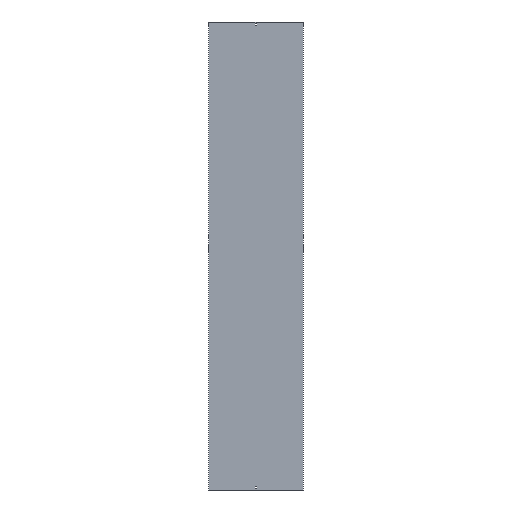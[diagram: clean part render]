
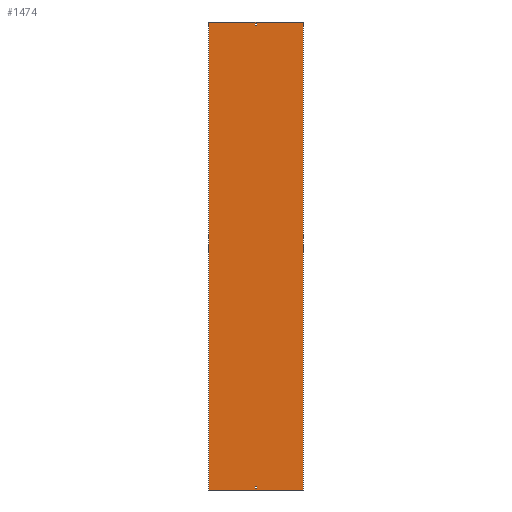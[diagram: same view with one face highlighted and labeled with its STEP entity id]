
A CAD part, front view. The second image highlights one B-rep face of the part: STEP entity #1474.
In plain terms, the highlighted planar face has unit normal (0, -1, 0).
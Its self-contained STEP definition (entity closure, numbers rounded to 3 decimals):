
#4 = FACE_BOUND ( 'NONE', #505, .T. ) ;
#19 = CARTESIAN_POINT ( 'NONE',  ( 3.25, 0., -1488. ) ) ;
#76 = DIRECTION ( 'NONE',  ( 0., 0., -1. ) ) ;
#101 = ORIENTED_EDGE ( 'NONE', *, *, #355, .T. ) ;
#146 = EDGE_CURVE ( 'NONE', #1374, #1237, #1238, .T. ) ;
#183 = VERTEX_POINT ( 'NONE', #1379 ) ;
#220 = VECTOR ( 'NONE', #1328, 1000. ) ;
#231 = ORIENTED_EDGE ( 'NONE', *, *, #1148, .T. ) ;
#236 = CARTESIAN_POINT ( 'NONE',  ( -3.25, 0., -1488. ) ) ;
#241 = VECTOR ( 'NONE', #76, 1000. ) ;
#250 = FACE_OUTER_BOUND ( 'NONE', #874, .T. ) ;
#256 = DIRECTION ( 'NONE',  ( -1., 0., 0. ) ) ;
#276 = ORIENTED_EDGE ( 'NONE', *, *, #544, .F. ) ;
#287 = VERTEX_POINT ( 'NONE', #639 ) ;
#296 = ORIENTED_EDGE ( 'NONE', *, *, #918, .T. ) ;
#306 = ORIENTED_EDGE ( 'NONE', *, *, #1442, .F. ) ;
#311 = CARTESIAN_POINT ( 'NONE',  ( 3.25, 0., 1479. ) ) ;
#343 = EDGE_CURVE ( 'NONE', #1551, #1268, #793, .T. ) ;
#355 = EDGE_CURVE ( 'NONE', #1268, #1024, #1332, .T. ) ;
#383 = CARTESIAN_POINT ( 'NONE',  ( -302., 0., 1500. ) ) ;
#399 = VECTOR ( 'NONE', #1020, 1000. ) ;
#464 = DIRECTION ( 'NONE',  ( 1., 0., 0. ) ) ;
#505 = EDGE_LOOP ( 'NONE', ( #1303, #1050, #604, #306 ) ) ;
#512 = FACE_BOUND ( 'NONE', #1592, .T. ) ;
#524 = DIRECTION ( 'NONE',  ( 1., 0., 0. ) ) ;
#544 = EDGE_CURVE ( 'NONE', #1167, #1024, #1101, .T. ) ;
#563 = VECTOR ( 'NONE', #464, 1000. ) ;
#585 = ORIENTED_EDGE ( 'NONE', *, *, #636, .T. ) ;
#588 = DIRECTION ( 'NONE',  ( 0., 0., -1. ) ) ;
#592 = VERTEX_POINT ( 'NONE', #19 ) ;
#604 = ORIENTED_EDGE ( 'NONE', *, *, #146, .F. ) ;
#611 = DIRECTION ( 'NONE',  ( 1., 0., 0. ) ) ;
#624 = VECTOR ( 'NONE', #1147, 1000. ) ;
#636 = EDGE_CURVE ( 'NONE', #661, #592, #1597, .T. ) ;
#639 = CARTESIAN_POINT ( 'NONE',  ( -3.25, 0., 1479. ) ) ;
#661 = VERTEX_POINT ( 'NONE', #1435 ) ;
#712 = ORIENTED_EDGE ( 'NONE', *, *, #1515, .F. ) ;
#717 = CARTESIAN_POINT ( 'NONE',  ( 302., 0., 1500. ) ) ;
#787 = AXIS2_PLACEMENT_3D ( 'NONE', #383, #905, #256 ) ;
#793 = LINE ( 'NONE', #1190, #1144 ) ;
#794 = CARTESIAN_POINT ( 'NONE',  ( 3.25, 0., -1488. ) ) ;
#818 = CARTESIAN_POINT ( 'NONE',  ( 302., 0., -1500. ) ) ;
#826 = DIRECTION ( 'NONE',  ( 0., 0., -1. ) ) ;
#844 = DIRECTION ( 'NONE',  ( -1., 0., 0. ) ) ;
#874 = EDGE_LOOP ( 'NONE', ( #101, #276, #712, #1153 ) ) ;
#876 = CARTESIAN_POINT ( 'NONE',  ( -302., 0., -1500. ) ) ;
#905 = DIRECTION ( 'NONE',  ( 0., 1., 0. ) ) ;
#918 = EDGE_CURVE ( 'NONE', #592, #1672, #1149, .T. ) ;
#942 = CARTESIAN_POINT ( 'NONE',  ( -302., 0., 1500. ) ) ;
#951 = VECTOR ( 'NONE', #1469, 1000. ) ;
#1020 = DIRECTION ( 'NONE',  ( -1., 0., 0. ) ) ;
#1024 = VERTEX_POINT ( 'NONE', #818 ) ;
#1032 = VECTOR ( 'NONE', #844, 1000. ) ;
#1050 = ORIENTED_EDGE ( 'NONE', *, *, #1531, .F. ) ;
#1060 = CARTESIAN_POINT ( 'NONE',  ( -3.25, 0., -1488. ) ) ;
#1073 = CARTESIAN_POINT ( 'NONE',  ( 3.25, 0., 1488. ) ) ;
#1101 = LINE ( 'NONE', #717, #1552 ) ;
#1129 = CARTESIAN_POINT ( 'NONE',  ( -3.25, 0., 1488. ) ) ;
#1144 = VECTOR ( 'NONE', #826, 1000. ) ;
#1147 = DIRECTION ( 'NONE',  ( 0., 0., 1. ) ) ;
#1148 = EDGE_CURVE ( 'NONE', #183, #661, #1483, .T. ) ;
#1149 = LINE ( 'NONE', #236, #399 ) ;
#1153 = ORIENTED_EDGE ( 'NONE', *, *, #343, .T. ) ;
#1167 = VERTEX_POINT ( 'NONE', #1611 ) ;
#1190 = CARTESIAN_POINT ( 'NONE',  ( -302., 0., 1500. ) ) ;
#1196 = VERTEX_POINT ( 'NONE', #311 ) ;
#1237 = VERTEX_POINT ( 'NONE', #1358 ) ;
#1238 = LINE ( 'NONE', #1129, #1032 ) ;
#1241 = CARTESIAN_POINT ( 'NONE',  ( -3.25, 0., -1479. ) ) ;
#1249 = VECTOR ( 'NONE', #1465, 1000. ) ;
#1268 = VERTEX_POINT ( 'NONE', #876 ) ;
#1303 = ORIENTED_EDGE ( 'NONE', *, *, #1318, .F. ) ;
#1315 = CARTESIAN_POINT ( 'NONE',  ( -302., 0., -1500. ) ) ;
#1318 = EDGE_CURVE ( 'NONE', #287, #1196, #1661, .T. ) ;
#1328 = DIRECTION ( 'NONE',  ( 0., 0., 1. ) ) ;
#1329 = EDGE_CURVE ( 'NONE', #1672, #183, #1400, .T. ) ;
#1332 = LINE ( 'NONE', #1315, #1634 ) ;
#1358 = CARTESIAN_POINT ( 'NONE',  ( -3.25, 0., 1488. ) ) ;
#1374 = VERTEX_POINT ( 'NONE', #1540 ) ;
#1379 = CARTESIAN_POINT ( 'NONE',  ( -3.25, 0., -1479. ) ) ;
#1387 = CARTESIAN_POINT ( 'NONE',  ( -302., 0., 1500. ) ) ;
#1391 = VECTOR ( 'NONE', #611, 1000. ) ;
#1392 = CARTESIAN_POINT ( 'NONE',  ( -3.25, 0., 1479. ) ) ;
#1400 = LINE ( 'NONE', #1547, #624 ) ;
#1435 = CARTESIAN_POINT ( 'NONE',  ( 3.25, 0., -1479. ) ) ;
#1442 = EDGE_CURVE ( 'NONE', #1196, #1374, #1585, .T. ) ;
#1465 = DIRECTION ( 'NONE',  ( 1., 0., 0. ) ) ;
#1469 = DIRECTION ( 'NONE',  ( 0., 0., -1. ) ) ;
#1474 = ADVANCED_FACE ( 'NONE', ( #250, #4, #512 ), #1556, .F. ) ;
#1483 = LINE ( 'NONE', #1241, #563 ) ;
#1513 = LINE ( 'NONE', #942, #1249 ) ;
#1515 = EDGE_CURVE ( 'NONE', #1551, #1167, #1513, .T. ) ;
#1531 = EDGE_CURVE ( 'NONE', #1237, #287, #1601, .T. ) ;
#1540 = CARTESIAN_POINT ( 'NONE',  ( 3.25, 0., 1488. ) ) ;
#1547 = CARTESIAN_POINT ( 'NONE',  ( -3.25, 0., -1488. ) ) ;
#1551 = VERTEX_POINT ( 'NONE', #1387 ) ;
#1552 = VECTOR ( 'NONE', #588, 1000. ) ;
#1556 = PLANE ( 'NONE',  #787 ) ;
#1585 = LINE ( 'NONE', #1073, #220 ) ;
#1592 = EDGE_LOOP ( 'NONE', ( #1603, #231, #585, #296 ) ) ;
#1597 = LINE ( 'NONE', #794, #951 ) ;
#1601 = LINE ( 'NONE', #1646, #241 ) ;
#1603 = ORIENTED_EDGE ( 'NONE', *, *, #1329, .T. ) ;
#1611 = CARTESIAN_POINT ( 'NONE',  ( 302., 0., 1500. ) ) ;
#1634 = VECTOR ( 'NONE', #524, 1000. ) ;
#1646 = CARTESIAN_POINT ( 'NONE',  ( -3.25, 0., 1488. ) ) ;
#1661 = LINE ( 'NONE', #1392, #1391 ) ;
#1672 = VERTEX_POINT ( 'NONE', #1060 ) ;
